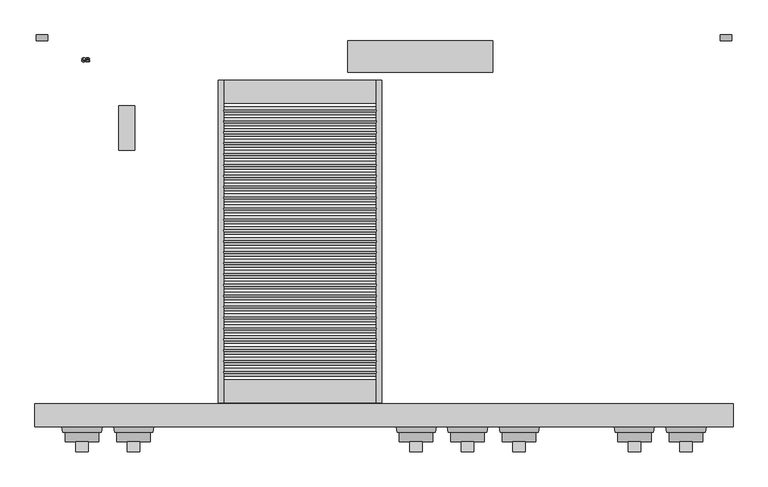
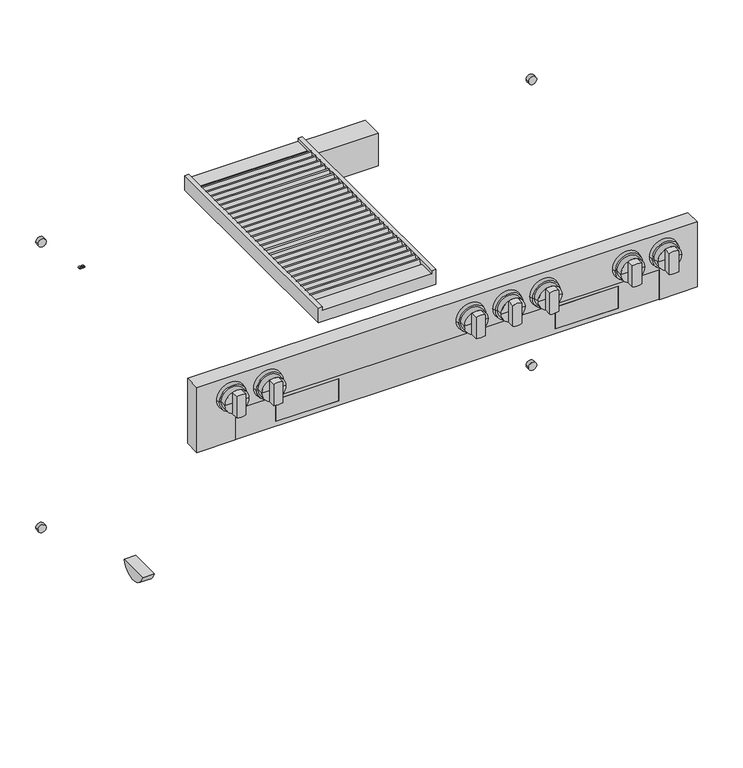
"""IFC4 building model written with IfcOpenShell, lengths in millimetres: proxy geometry, 11791690_USA_HR1955-3G_EDST-CLST : 25195581_USA_11791690_HR1955-3G_EDST-CLST."""

from ifc_helpers import new_model, si_unit, point, frame, frame_2d, origin, place, context, project, spatial, polyline, circle_curve, trimmed, segment, composite_curve, outline, extrude, faceted_brep, source, transform, mapped, element, save
from ifc_brep_helpers import plane_surface, cylinder_surface, revolved_surface, advanced_brep


def specialty_equipment_9f889e3c(model_context):
    return source(origin(), model_context, "Body", "SolidModel", [
        extrude(outline(composite_curve([segment(polyline([(-584.850382, 916.0), (-579.8405353, 927.7825791)]), True, "CONTINUOUS"), segment(trimmed(circle_curve(frame_2d((-578.0, 927.0)), 2.0), [point((-579.8405353, 927.7825791))], [point((-576.1594647, 927.7825791))], False, "CARTESIAN"), True, "CONTINUOUS"), segment(polyline([(-576.1594647, 927.7825791), (-571.149618, 916.0), (-584.850382, 916.0)]), True, "CONTINUOUS")], self_intersect=False)), frame((-279.5, 0.0, 0.0), z_axis=(1.0, 0.0, 0.0), x_axis=(0.0, 1.0, 0.0)), (0.0, 0.0, 1.0), 266.0),
        extrude(outline(composite_curve([segment(polyline([(-565.850382, 916.0), (-560.8405353, 927.7825791)]), True, "CONTINUOUS"), segment(trimmed(circle_curve(frame_2d((-559.0, 927.0)), 2.0), [point((-560.8405353, 927.7825791))], [point((-557.1594647, 927.7825791))], False, "CARTESIAN"), True, "CONTINUOUS"), segment(polyline([(-557.1594647, 927.7825791), (-552.149618, 916.0), (-565.850382, 916.0)]), True, "CONTINUOUS")], self_intersect=False)), frame((-279.5, 0.0, 0.0), z_axis=(1.0, 0.0, 0.0), x_axis=(0.0, 1.0, 0.0)), (0.0, 0.0, 1.0), 266.0),
        extrude(outline(composite_curve([segment(polyline([(-546.850382, 916.0), (-541.8405353, 927.7825791)]), True, "CONTINUOUS"), segment(trimmed(circle_curve(frame_2d((-540.0, 927.0)), 2.0), [point((-541.8405353, 927.7825791))], [point((-538.1594647, 927.7825791))], False, "CARTESIAN"), True, "CONTINUOUS"), segment(polyline([(-538.1594647, 927.7825791), (-533.149618, 916.0), (-546.850382, 916.0)]), True, "CONTINUOUS")], self_intersect=False)), frame((-279.5, 0.0, 0.0), z_axis=(1.0, 0.0, 0.0), x_axis=(0.0, 1.0, 0.0)), (0.0, 0.0, 1.0), 266.0),
        extrude(outline(composite_curve([segment(polyline([(-527.850382, 916.0), (-522.8405353, 927.7825791)]), True, "CONTINUOUS"), segment(trimmed(circle_curve(frame_2d((-521.0, 927.0)), 2.0), [point((-522.8405353, 927.7825791))], [point((-519.1594647, 927.7825791))], False, "CARTESIAN"), True, "CONTINUOUS"), segment(polyline([(-519.1594647, 927.7825791), (-514.149618, 916.0), (-527.850382, 916.0)]), True, "CONTINUOUS")], self_intersect=False)), frame((-279.5, 0.0, 0.0), z_axis=(1.0, 0.0, 0.0), x_axis=(0.0, 1.0, 0.0)), (0.0, 0.0, 1.0), 266.0),
        extrude(outline(composite_curve([segment(polyline([(-508.850382, 916.0), (-503.8405353, 927.7825791)]), True, "CONTINUOUS"), segment(trimmed(circle_curve(frame_2d((-502.0, 927.0)), 2.0), [point((-503.8405353, 927.7825791))], [point((-500.1594647, 927.7825791))], False, "CARTESIAN"), True, "CONTINUOUS"), segment(polyline([(-500.1594647, 927.7825791), (-495.149618, 916.0), (-508.850382, 916.0)]), True, "CONTINUOUS")], self_intersect=False)), frame((-279.5, 0.0, 0.0), z_axis=(1.0, 0.0, 0.0), x_axis=(0.0, 1.0, 0.0)), (0.0, 0.0, 1.0), 266.0),
        extrude(outline(composite_curve([segment(polyline([(-489.850382, 916.0), (-484.8405353, 927.7825791)]), True, "CONTINUOUS"), segment(trimmed(circle_curve(frame_2d((-483.0, 927.0)), 2.0), [point((-484.8405353, 927.7825791))], [point((-481.1594647, 927.7825791))], False, "CARTESIAN"), True, "CONTINUOUS"), segment(polyline([(-481.1594647, 927.7825791), (-476.149618, 916.0), (-489.850382, 916.0)]), True, "CONTINUOUS")], self_intersect=False)), frame((-279.5, 0.0, 0.0), z_axis=(1.0, 0.0, 0.0), x_axis=(0.0, 1.0, 0.0)), (0.0, 0.0, 1.0), 266.0),
        extrude(outline(composite_curve([segment(polyline([(-470.850382, 916.0), (-465.8405353, 927.7825791)]), True, "CONTINUOUS"), segment(trimmed(circle_curve(frame_2d((-464.0, 927.0)), 2.0), [point((-465.8405353, 927.7825791))], [point((-462.1594647, 927.7825791))], False, "CARTESIAN"), True, "CONTINUOUS"), segment(polyline([(-462.1594647, 927.7825791), (-457.149618, 916.0), (-470.850382, 916.0)]), True, "CONTINUOUS")], self_intersect=False)), frame((-279.5, 0.0, 0.0), z_axis=(1.0, 0.0, 0.0), x_axis=(0.0, 1.0, 0.0)), (0.0, 0.0, 1.0), 266.0),
        extrude(outline(composite_curve([segment(polyline([(-451.850382, 916.0), (-446.8405353, 927.7825791)]), True, "CONTINUOUS"), segment(trimmed(circle_curve(frame_2d((-445.0, 927.0)), 2.0), [point((-446.8405353, 927.7825791))], [point((-443.1594647, 927.7825791))], False, "CARTESIAN"), True, "CONTINUOUS"), segment(polyline([(-443.1594647, 927.7825791), (-438.149618, 916.0), (-451.850382, 916.0)]), True, "CONTINUOUS")], self_intersect=False)), frame((-279.5, 0.0, 0.0), z_axis=(1.0, 0.0, 0.0), x_axis=(0.0, 1.0, 0.0)), (0.0, 0.0, 1.0), 266.0),
        extrude(outline(composite_curve([segment(polyline([(-432.850382, 916.0), (-427.8405353, 927.7825791)]), True, "CONTINUOUS"), segment(trimmed(circle_curve(frame_2d((-426.0, 927.0)), 2.0), [point((-427.8405353, 927.7825791))], [point((-424.1594647, 927.7825791))], False, "CARTESIAN"), True, "CONTINUOUS"), segment(polyline([(-424.1594647, 927.7825791), (-419.149618, 916.0), (-432.850382, 916.0)]), True, "CONTINUOUS")], self_intersect=False)), frame((-279.5, 0.0, 0.0), z_axis=(1.0, 0.0, 0.0), x_axis=(0.0, 1.0, 0.0)), (0.0, 0.0, 1.0), 266.0),
        extrude(outline(composite_curve([segment(polyline([(-413.850382, 916.0), (-408.8405353, 927.7825791)]), True, "CONTINUOUS"), segment(trimmed(circle_curve(frame_2d((-407.0, 927.0)), 2.0), [point((-408.8405353, 927.7825791))], [point((-405.1594647, 927.7825791))], False, "CARTESIAN"), True, "CONTINUOUS"), segment(polyline([(-405.1594647, 927.7825791), (-400.149618, 916.0), (-413.850382, 916.0)]), True, "CONTINUOUS")], self_intersect=False)), frame((-279.5, 0.0, 0.0), z_axis=(1.0, 0.0, 0.0), x_axis=(0.0, 1.0, 0.0)), (0.0, 0.0, 1.0), 266.0),
        extrude(outline(composite_curve([segment(polyline([(-394.850382, 916.0), (-389.8405353, 927.7825791)]), True, "CONTINUOUS"), segment(trimmed(circle_curve(frame_2d((-388.0, 927.0)), 2.0), [point((-389.8405353, 927.7825791))], [point((-386.1594647, 927.7825791))], False, "CARTESIAN"), True, "CONTINUOUS"), segment(polyline([(-386.1594647, 927.7825791), (-381.149618, 916.0), (-394.850382, 916.0)]), True, "CONTINUOUS")], self_intersect=False)), frame((-279.5, 0.0, 0.0), z_axis=(1.0, 0.0, 0.0), x_axis=(0.0, 1.0, 0.0)), (0.0, 0.0, 1.0), 266.0),
        extrude(outline(composite_curve([segment(polyline([(-375.850382, 916.0), (-370.8405353, 927.7825791)]), True, "CONTINUOUS"), segment(trimmed(circle_curve(frame_2d((-369.0, 927.0)), 2.0), [point((-370.8405353, 927.7825791))], [point((-367.1594647, 927.7825791))], False, "CARTESIAN"), True, "CONTINUOUS"), segment(polyline([(-367.1594647, 927.7825791), (-362.149618, 916.0), (-375.850382, 916.0)]), True, "CONTINUOUS")], self_intersect=False)), frame((-279.5, 0.0, 0.0), z_axis=(1.0, 0.0, 0.0), x_axis=(0.0, 1.0, 0.0)), (0.0, 0.0, 1.0), 266.0),
        extrude(outline(composite_curve([segment(polyline([(-356.850382, 916.0), (-351.8405353, 927.7825791)]), True, "CONTINUOUS"), segment(trimmed(circle_curve(frame_2d((-350.0, 927.0)), 2.0), [point((-351.8405353, 927.7825791))], [point((-348.1594647, 927.7825791))], False, "CARTESIAN"), True, "CONTINUOUS"), segment(polyline([(-348.1594647, 927.7825791), (-343.149618, 916.0), (-356.850382, 916.0)]), True, "CONTINUOUS")], self_intersect=False)), frame((-279.5, 0.0, 0.0), z_axis=(1.0, 0.0, 0.0), x_axis=(0.0, 1.0, 0.0)), (0.0, 0.0, 1.0), 266.0),
        extrude(outline(composite_curve([segment(polyline([(-337.850382, 916.0), (-332.8405353, 927.7825791)]), True, "CONTINUOUS"), segment(trimmed(circle_curve(frame_2d((-331.0, 927.0)), 2.0), [point((-332.8405353, 927.7825791))], [point((-329.1594647, 927.7825791))], False, "CARTESIAN"), True, "CONTINUOUS"), segment(polyline([(-329.1594647, 927.7825791), (-324.149618, 916.0), (-337.850382, 916.0)]), True, "CONTINUOUS")], self_intersect=False)), frame((-279.5, 0.0, 0.0), z_axis=(1.0, 0.0, 0.0), x_axis=(0.0, 1.0, 0.0)), (0.0, 0.0, 1.0), 266.0),
        extrude(outline(composite_curve([segment(polyline([(-318.850382, 916.0), (-313.8405353, 927.7825791)]), True, "CONTINUOUS"), segment(trimmed(circle_curve(frame_2d((-312.0, 927.0)), 2.0), [point((-313.8405353, 927.7825791))], [point((-310.1594647, 927.7825791))], False, "CARTESIAN"), True, "CONTINUOUS"), segment(polyline([(-310.1594647, 927.7825791), (-305.149618, 916.0), (-318.850382, 916.0)]), True, "CONTINUOUS")], self_intersect=False)), frame((-279.5, 0.0, 0.0), z_axis=(1.0, 0.0, 0.0), x_axis=(0.0, 1.0, 0.0)), (0.0, 0.0, 1.0), 266.0),
        extrude(outline(composite_curve([segment(polyline([(-299.850382, 916.0), (-294.8405353, 927.7825791)]), True, "CONTINUOUS"), segment(trimmed(circle_curve(frame_2d((-293.0, 927.0)), 2.0), [point((-294.8405353, 927.7825791))], [point((-291.1594647, 927.7825791))], False, "CARTESIAN"), True, "CONTINUOUS"), segment(polyline([(-291.1594647, 927.7825791), (-286.149618, 916.0), (-299.850382, 916.0)]), True, "CONTINUOUS")], self_intersect=False)), frame((-279.5, 0.0, 0.0), z_axis=(1.0, 0.0, 0.0), x_axis=(0.0, 1.0, 0.0)), (0.0, 0.0, 1.0), 266.0),
        extrude(outline(composite_curve([segment(polyline([(-280.850382, 916.0), (-275.8405353, 927.7825791)]), True, "CONTINUOUS"), segment(trimmed(circle_curve(frame_2d((-274.0, 927.0)), 2.0), [point((-275.8405353, 927.7825791))], [point((-272.1594647, 927.7825791))], False, "CARTESIAN"), True, "CONTINUOUS"), segment(polyline([(-272.1594647, 927.7825791), (-267.149618, 916.0), (-280.850382, 916.0)]), True, "CONTINUOUS")], self_intersect=False)), frame((-279.5, 0.0, 0.0), z_axis=(1.0, 0.0, 0.0), x_axis=(0.0, 1.0, 0.0)), (0.0, 0.0, 1.0), 266.0),
        extrude(outline(composite_curve([segment(polyline([(-261.850382, 916.0), (-256.8405353, 927.7825791)]), True, "CONTINUOUS"), segment(trimmed(circle_curve(frame_2d((-255.0, 927.0)), 2.0), [point((-256.8405353, 927.7825791))], [point((-253.1594647, 927.7825791))], False, "CARTESIAN"), True, "CONTINUOUS"), segment(polyline([(-253.1594647, 927.7825791), (-248.149618, 916.0), (-261.850382, 916.0)]), True, "CONTINUOUS")], self_intersect=False)), frame((-279.5, 0.0, 0.0), z_axis=(1.0, 0.0, 0.0), x_axis=(0.0, 1.0, 0.0)), (0.0, 0.0, 1.0), 266.0),
        extrude(outline(composite_curve([segment(polyline([(-242.850382, 916.0), (-237.8405353, 927.7825791)]), True, "CONTINUOUS"), segment(trimmed(circle_curve(frame_2d((-236.0, 927.0)), 2.0), [point((-237.8405353, 927.7825791))], [point((-234.1594647, 927.7825791))], False, "CARTESIAN"), True, "CONTINUOUS"), segment(polyline([(-234.1594647, 927.7825791), (-229.149618, 916.0), (-242.850382, 916.0)]), True, "CONTINUOUS")], self_intersect=False)), frame((-279.5, 0.0, 0.0), z_axis=(1.0, 0.0, 0.0), x_axis=(0.0, 1.0, 0.0)), (0.0, 0.0, 1.0), 266.0),
        extrude(outline(composite_curve([segment(polyline([(-223.850382, 916.0), (-218.8405353, 927.7825791)]), True, "CONTINUOUS"), segment(trimmed(circle_curve(frame_2d((-217.0, 927.0)), 2.0), [point((-218.8405353, 927.7825791))], [point((-215.1594647, 927.7825791))], False, "CARTESIAN"), True, "CONTINUOUS"), segment(polyline([(-215.1594647, 927.7825791), (-210.149618, 916.0), (-223.850382, 916.0)]), True, "CONTINUOUS")], self_intersect=False)), frame((-279.5, 0.0, 0.0), z_axis=(1.0, 0.0, 0.0), x_axis=(0.0, 1.0, 0.0)), (0.0, 0.0, 1.0), 266.0),
        extrude(outline(composite_curve([segment(polyline([(-204.850382, 916.0), (-199.8405353, 927.7825791)]), True, "CONTINUOUS"), segment(trimmed(circle_curve(frame_2d((-198.0, 927.0)), 2.0), [point((-199.8405353, 927.7825791))], [point((-196.1594647, 927.7825791))], False, "CARTESIAN"), True, "CONTINUOUS"), segment(polyline([(-196.1594647, 927.7825791), (-191.149618, 916.0), (-204.850382, 916.0)]), True, "CONTINUOUS")], self_intersect=False)), frame((-279.5, 0.0, 0.0), z_axis=(1.0, 0.0, 0.0), x_axis=(0.0, 1.0, 0.0)), (0.0, 0.0, 1.0), 266.0),
        extrude(outline(composite_curve([segment(polyline([(-186.0094205, 916.0), (-180.9995737, 927.7825791)]), True, "CONTINUOUS"), segment(trimmed(circle_curve(frame_2d((-179.1590385, 927.0)), 2.0), [point((-180.9995737, 927.7825791))], [point((-177.3185032, 927.7825791))], False, "CARTESIAN"), True, "CONTINUOUS"), segment(polyline([(-177.3185032, 927.7825791), (-172.3086564, 916.0), (-186.0094205, 916.0)]), True, "CONTINUOUS")], self_intersect=False)), frame((-279.5, 0.0, 0.0), z_axis=(1.0, 0.0, 0.0), x_axis=(0.0, 1.0, 0.0)), (0.0, 0.0, 1.0), 266.0),
        extrude(outline(composite_curve([segment(polyline([(-167.0094205, 916.0), (-161.9995737, 927.7825791)]), True, "CONTINUOUS"), segment(trimmed(circle_curve(frame_2d((-160.1590385, 927.0)), 2.0), [point((-161.9995737, 927.7825791))], [point((-158.3185032, 927.7825791))], False, "CARTESIAN"), True, "CONTINUOUS"), segment(polyline([(-158.3185032, 927.7825791), (-153.3086564, 916.0), (-167.0094205, 916.0)]), True, "CONTINUOUS")], self_intersect=False)), frame((-279.5, 0.0, 0.0), z_axis=(1.0, 0.0, 0.0), x_axis=(0.0, 1.0, 0.0)), (0.0, 0.0, 1.0), 266.0),
        extrude(outline(composite_curve([segment(polyline([(-147.9510319, 916.0), (-142.9411852, 927.7825791)]), True, "CONTINUOUS"), segment(trimmed(circle_curve(frame_2d((-141.1006499, 927.0)), 2.0), [point((-142.9411852, 927.7825791))], [point((-139.2601147, 927.7825791))], False, "CARTESIAN"), True, "CONTINUOUS"), segment(polyline([(-139.2601147, 927.7825791), (-134.2502679, 916.0), (-147.9510319, 916.0)]), True, "CONTINUOUS")], self_intersect=False)), frame((-279.5, 0.0, 0.0), z_axis=(1.0, 0.0, 0.0), x_axis=(0.0, 1.0, 0.0)), (0.0, 0.0, 1.0), 266.0),
        extrude(outline(composite_curve([segment(polyline([(-128.9510319, 916.0), (-123.9411852, 927.7825791)]), True, "CONTINUOUS"), segment(trimmed(circle_curve(frame_2d((-122.1006499, 927.0)), 2.0), [point((-123.9411852, 927.7825791))], [point((-120.2601147, 927.7825791))], False, "CARTESIAN"), True, "CONTINUOUS"), segment(polyline([(-120.2601147, 927.7825791), (-115.2502679, 916.0), (-128.9510319, 916.0)]), True, "CONTINUOUS")], self_intersect=False)), frame((-279.5, 0.0, 0.0), z_axis=(1.0, 0.0, 0.0), x_axis=(0.0, 1.0, 0.0)), (0.0, 0.0, 1.0), 266.0),
        faceted_brep([(-289.0, -69.0, 929.0), (-289.0, -631.0, 929.0), (-279.5, -631.0, 929.0), (-279.5, -69.0, 929.0), (-4.0, -631.0, 929.0), (-4.0, -69.0, 929.0), (-13.5, -69.0, 929.0), (-13.5, -631.0, 929.0), (-4.0, -69.0, 891.0), (-4.0, -631.0, 891.0), (-289.0, -631.0, 891.0), (-289.0, -69.0, 891.0), (-13.5, -356.6944574, 891.0), (-13.5, -109.0, 891.0), (-279.5, -109.0, 891.0), (-279.5, -356.6944574, 891.0), (-279.5, -591.0, 891.0), (-13.5, -591.0, 891.0), (-279.5, -69.0, 921.0), (-13.5, -69.0, 921.0), (-13.5, -631.0, 921.0), (-279.5, -631.0, 921.0), (-13.5, -591.0, 921.0), (-13.5, -109.0, 921.0), (-279.5, -591.0, 921.0), (-279.5, -109.0, 921.0)], [[[0, 1, 2, 3]], [[4, 5, 6, 7]], [[8, 9, 10, 11], [12, 13, 14, 15, 16, 17]], [[8, 11, 0, 3, 18, 19, 6, 5]], [[1, 0, 11, 10]], [[10, 9, 4, 7, 20, 21, 2, 1]], [[5, 4, 9, 8]], [[22, 20, 7, 6, 19, 23, 13, 12, 17]], [[24, 16, 15, 14, 25, 18, 3, 2, 21]], [[22, 17, 16, 24]], [[13, 23, 25, 14]], [[23, 19, 18, 25]], [[20, 22, 24, 21]]]),
        extrude(outline(composite_curve([segment(polyline([(839.8328157, 134.5), (786.1671843, 134.5)]), True, "CONTINUOUS"), segment(trimmed(circle_curve(frame_2d((813.0, 145.5)), 29.0), [point((786.1671843, 134.5))], [point((786.1671843, 156.5))], False, "CARTESIAN"), True, "CONTINUOUS"), segment(polyline([(786.1671843, 156.5), (839.8328157, 156.5)]), True, "CONTINUOUS"), segment(trimmed(circle_curve(frame_2d((813.0, 145.5)), 29.0), [point((839.8328157, 156.5))], [point((839.8328157, 134.5))], False, "CARTESIAN"), True, "CONTINUOUS")], self_intersect=False)), frame((0.0, -717.0, 0.0), z_axis=(0.0, 1.0, 0.0), x_axis=(0.0, 0.0, 1.0)), (0.0, 0.0, 1.0), 18.0),
        extrude(outline(composite_curve([segment(polyline([(839.8328157, 45.0), (786.1671843, 45.0)]), True, "CONTINUOUS"), segment(trimmed(circle_curve(frame_2d((813.0, 56.0)), 29.0), [point((786.1671843, 45.0))], [point((786.1671843, 67.0))], False, "CARTESIAN"), True, "CONTINUOUS"), segment(polyline([(786.1671843, 67.0), (839.8328157, 67.0)]), True, "CONTINUOUS"), segment(trimmed(circle_curve(frame_2d((813.0, 56.0)), 29.0), [point((839.8328157, 67.0))], [point((839.8328157, 45.0))], False, "CARTESIAN"), True, "CONTINUOUS")], self_intersect=False)), frame((0.0, -717.0, 0.0), z_axis=(0.0, 1.0, 0.0), x_axis=(0.0, 0.0, 1.0)), (0.0, 0.0, 1.0), 18.0),
        advanced_brep(
        [(56.0, -683.0, 813.0), (85.0, -683.0, 813.0), (27.0, -683.0, 813.0), (27.0, -699.0, 813.0), (85.0, -699.0, 813.0), (56.0, -699.0, 813.0)],
        [
            (0, 1),
            (1, 2, circle_curve(frame((56.0, -683.0, 813.0), z_axis=(0.0, 1.0, 0.0), x_axis=(1.0, 0.0, 0.0)), 29.0)),
            (2, 0),
            (2, 1, circle_curve(frame((56.0, -683.0, 813.0), z_axis=(0.0, 1.0, 0.0), x_axis=(1.0, 0.0, 0.0)), 29.0)),
            (3, 4, circle_curve(frame((56.0, -699.0, 813.0), z_axis=(0.0, -1.0, 0.0), x_axis=(1.0, 0.0, 0.0)), 29.0)),
            (4, 5),
            (5, 3),
            (4, 3, circle_curve(frame((56.0, -699.0, 813.0), z_axis=(0.0, -1.0, 0.0), x_axis=(1.0, 0.0, 0.0)), 29.0)),
            (1, 4),
            (3, 2),
        ],
        [
            plane_surface(frame((56.0, -683.0, 813.0), z_axis=(0.0, 1.0, 0.0), x_axis=(1.0, 0.0, 0.0))),
            plane_surface(frame((56.0, -699.0, 813.0), z_axis=(0.0, -1.0, 0.0), x_axis=(1.0, 0.0, 0.0))),
            cylinder_surface(frame((56.0, 751.3738435, 813.0), z_axis=(0.0, 1.0, 0.0), x_axis=(1.0, 0.0, 0.0)), 29.0),
        ],
        [
            (0, [[1, 2, 3]]),
            (0, [[-3, 4, -1]]),
            (1, [[5, 6, 7]]),
            (1, [[8, -7, -6]]),
            (2, [[-2, 9, -5, 10]]),
            (2, [[-4, -10, -8, -9]]),
        ],
    ),
        advanced_brep(
        [(145.5, -683.0, 813.0), (174.5, -683.0, 813.0), (116.5, -683.0, 813.0), (116.5, -699.0, 813.0), (174.5, -699.0, 813.0), (145.5, -699.0, 813.0)],
        [
            (0, 1),
            (1, 2, circle_curve(frame((145.5, -683.0, 813.0), z_axis=(0.0, 1.0, 0.0), x_axis=(1.0, 0.0, 0.0)), 29.0)),
            (2, 0),
            (2, 1, circle_curve(frame((145.5, -683.0, 813.0), z_axis=(0.0, 1.0, 0.0), x_axis=(1.0, 0.0, 0.0)), 29.0)),
            (3, 4, circle_curve(frame((145.5, -699.0, 813.0), z_axis=(0.0, -1.0, 0.0), x_axis=(1.0, 0.0, 0.0)), 29.0)),
            (4, 5),
            (5, 3),
            (4, 3, circle_curve(frame((145.5, -699.0, 813.0), z_axis=(0.0, -1.0, 0.0), x_axis=(1.0, 0.0, 0.0)), 29.0)),
            (1, 4),
            (3, 2),
        ],
        [
            plane_surface(frame((145.5, -683.0, 813.0), z_axis=(0.0, 1.0, 0.0), x_axis=(1.0, 0.0, 0.0))),
            plane_surface(frame((145.5, -699.0, 813.0), z_axis=(0.0, -1.0, 0.0), x_axis=(1.0, 0.0, 0.0))),
            cylinder_surface(frame((145.5, 751.3738435, 813.0), z_axis=(0.0, 1.0, 0.0), x_axis=(1.0, 0.0, 0.0)), 29.0),
        ],
        [
            (0, [[1, 2, 3]]),
            (0, [[-3, 4, -1]]),
            (1, [[5, 6, 7]]),
            (1, [[8, -7, -6]]),
            (2, [[-2, 9, -5, 10]]),
            (2, [[-4, -10, -8, -9]]),
        ],
    ),
        extrude(outline(composite_curve([segment(polyline([(839.8328157, -537.5), (786.1671843, -537.5)]), True, "CONTINUOUS"), segment(trimmed(circle_curve(frame_2d((813.0, -526.5)), 29.0), [point((786.1671843, -537.5))], [point((786.1671843, -515.5))], False, "CARTESIAN"), True, "CONTINUOUS"), segment(polyline([(786.1671843, -515.5), (839.8328157, -515.5)]), True, "CONTINUOUS"), segment(trimmed(circle_curve(frame_2d((813.0, -526.5)), 29.0), [point((839.8328157, -515.5))], [point((839.8328157, -537.5))], False, "CARTESIAN"), True, "CONTINUOUS")], self_intersect=False)), frame((0.0, -717.0, 0.0), z_axis=(0.0, 1.0, 0.0), x_axis=(0.0, 0.0, 1.0)), (0.0, 0.0, 1.0), 18.0),
        extrude(outline(composite_curve([segment(polyline([(839.8328157, -447.5), (786.1671843, -447.5)]), True, "CONTINUOUS"), segment(trimmed(circle_curve(frame_2d((813.0, -436.5)), 29.0), [point((786.1671843, -447.5))], [point((786.1671843, -425.5))], False, "CARTESIAN"), True, "CONTINUOUS"), segment(polyline([(786.1671843, -425.5), (839.8328157, -425.5)]), True, "CONTINUOUS"), segment(trimmed(circle_curve(frame_2d((813.0, -436.5)), 29.0), [point((839.8328157, -425.5))], [point((839.8328157, -447.5))], False, "CARTESIAN"), True, "CONTINUOUS")], self_intersect=False)), frame((0.0, -717.0, 0.0), z_axis=(0.0, 1.0, 0.0), x_axis=(0.0, 0.0, 1.0)), (0.0, 0.0, 1.0), 18.0),
        extrude(outline(composite_curve([segment(polyline([(839.8328157, 224.5), (786.1671843, 224.5)]), True, "CONTINUOUS"), segment(trimmed(circle_curve(frame_2d((813.0, 235.5)), 29.0), [point((786.1671843, 224.5))], [point((786.1671843, 246.5))], False, "CARTESIAN"), True, "CONTINUOUS"), segment(polyline([(786.1671843, 246.5), (839.8328157, 246.5)]), True, "CONTINUOUS"), segment(trimmed(circle_curve(frame_2d((813.0, 235.5)), 29.0), [point((839.8328157, 246.5))], [point((839.8328157, 224.5))], False, "CARTESIAN"), True, "CONTINUOUS")], self_intersect=False)), frame((0.0, -717.0, 0.0), z_axis=(0.0, 1.0, 0.0), x_axis=(0.0, 0.0, 1.0)), (0.0, 0.0, 1.0), 18.0),
        extrude(outline(composite_curve([segment(trimmed(circle_curve(frame_2d((813.0, 436.5)), 29.0), [point((786.1671843, 425.5))], [point((786.1671843, 447.5))], False, "CARTESIAN"), True, "CONTINUOUS"), segment(polyline([(786.1671843, 447.5), (839.8328157, 447.5)]), True, "CONTINUOUS"), segment(trimmed(circle_curve(frame_2d((813.0, 436.5)), 29.0), [point((839.8328157, 447.5))], [point((839.8328157, 425.5))], False, "CARTESIAN"), True, "CONTINUOUS"), segment(polyline([(839.8328157, 425.5), (786.1671843, 425.5)]), True, "CONTINUOUS")], self_intersect=False)), frame((0.0, -717.0, 0.0), z_axis=(0.0, 1.0, 0.0), x_axis=(0.0, 0.0, 1.0)), (0.0, 0.0, 1.0), 18.0),
        advanced_brep(
        [(-526.5, -683.0, 813.0), (-497.5, -683.0, 813.0), (-555.5, -683.0, 813.0), (-555.5, -699.0, 813.0), (-497.5, -699.0, 813.0), (-526.5, -699.0, 813.0)],
        [
            (0, 1),
            (1, 2, circle_curve(frame((-526.5, -683.0, 813.0), z_axis=(0.0, 1.0, 0.0), x_axis=(1.0, 0.0, 0.0)), 29.0)),
            (2, 0),
            (2, 1, circle_curve(frame((-526.5, -683.0, 813.0), z_axis=(0.0, 1.0, 0.0), x_axis=(1.0, 0.0, 0.0)), 29.0)),
            (3, 4, circle_curve(frame((-526.5, -699.0, 813.0), z_axis=(0.0, -1.0, 0.0), x_axis=(1.0, 0.0, 0.0)), 29.0)),
            (4, 5),
            (5, 3),
            (4, 3, circle_curve(frame((-526.5, -699.0, 813.0), z_axis=(0.0, -1.0, 0.0), x_axis=(1.0, 0.0, 0.0)), 29.0)),
            (1, 4),
            (3, 2),
        ],
        [
            plane_surface(frame((-526.5, -683.0, 813.0), z_axis=(0.0, 1.0, 0.0), x_axis=(1.0, 0.0, 0.0))),
            plane_surface(frame((-526.5, -699.0, 813.0), z_axis=(0.0, -1.0, 0.0), x_axis=(1.0, 0.0, 0.0))),
            cylinder_surface(frame((-526.5, 751.3738435, 813.0), z_axis=(0.0, 1.0, 0.0), x_axis=(1.0, 0.0, 0.0)), 29.0),
        ],
        [
            (0, [[1, 2, 3]]),
            (0, [[-3, 4, -1]]),
            (1, [[5, 6, 7]]),
            (1, [[8, -7, -6]]),
            (2, [[-2, 9, -5, 10]]),
            (2, [[-4, -10, -8, -9]]),
        ],
    ),
        advanced_brep(
        [(-436.5, -683.0, 813.0), (-407.5, -683.0, 813.0), (-465.5, -683.0, 813.0), (-465.5, -699.0, 813.0), (-407.5, -699.0, 813.0), (-436.5, -699.0, 813.0)],
        [
            (0, 1),
            (1, 2, circle_curve(frame((-436.5, -683.0, 813.0), z_axis=(0.0, 1.0, 0.0), x_axis=(1.0, 0.0, 0.0)), 29.0)),
            (2, 0),
            (2, 1, circle_curve(frame((-436.5, -683.0, 813.0), z_axis=(0.0, 1.0, 0.0), x_axis=(1.0, 0.0, 0.0)), 29.0)),
            (3, 4, circle_curve(frame((-436.5, -699.0, 813.0), z_axis=(0.0, -1.0, 0.0), x_axis=(1.0, 0.0, 0.0)), 29.0)),
            (4, 5),
            (5, 3),
            (4, 3, circle_curve(frame((-436.5, -699.0, 813.0), z_axis=(0.0, -1.0, 0.0), x_axis=(1.0, 0.0, 0.0)), 29.0)),
            (1, 4),
            (3, 2),
        ],
        [
            plane_surface(frame((-436.5, -683.0, 813.0), z_axis=(0.0, 1.0, 0.0), x_axis=(1.0, 0.0, 0.0))),
            plane_surface(frame((-436.5, -699.0, 813.0), z_axis=(0.0, -1.0, 0.0), x_axis=(1.0, 0.0, 0.0))),
            cylinder_surface(frame((-436.5, 751.3738435, 813.0), z_axis=(0.0, 1.0, 0.0), x_axis=(1.0, 0.0, 0.0)), 29.0),
        ],
        [
            (0, [[1, 2, 3]]),
            (0, [[-3, 4, -1]]),
            (1, [[5, 6, 7]]),
            (1, [[8, -7, -6]]),
            (2, [[-2, 9, -5, 10]]),
            (2, [[-4, -10, -8, -9]]),
        ],
    ),
        advanced_brep(
        [(235.5, -683.0, 813.0), (264.5, -683.0, 813.0), (206.5, -683.0, 813.0), (206.5, -699.0, 813.0), (264.5, -699.0, 813.0), (235.5, -699.0, 813.0)],
        [
            (0, 1),
            (1, 2, circle_curve(frame((235.5, -683.0, 813.0), z_axis=(0.0, 1.0, 0.0), x_axis=(1.0, 0.0, 0.0)), 29.0)),
            (2, 0),
            (2, 1, circle_curve(frame((235.5, -683.0, 813.0), z_axis=(0.0, 1.0, 0.0), x_axis=(1.0, 0.0, 0.0)), 29.0)),
            (3, 4, circle_curve(frame((235.5, -699.0, 813.0), z_axis=(0.0, -1.0, 0.0), x_axis=(1.0, 0.0, 0.0)), 29.0)),
            (4, 5),
            (5, 3),
            (4, 3, circle_curve(frame((235.5, -699.0, 813.0), z_axis=(0.0, -1.0, 0.0), x_axis=(1.0, 0.0, 0.0)), 29.0)),
            (1, 4),
            (3, 2),
        ],
        [
            plane_surface(frame((235.5, -683.0, 813.0), z_axis=(0.0, 1.0, 0.0), x_axis=(1.0, 0.0, 0.0))),
            plane_surface(frame((235.5, -699.0, 813.0), z_axis=(0.0, -1.0, 0.0), x_axis=(1.0, 0.0, 0.0))),
            cylinder_surface(frame((235.5, 751.3738435, 813.0), z_axis=(0.0, 1.0, 0.0), x_axis=(1.0, 0.0, 0.0)), 29.0),
        ],
        [
            (0, [[1, 2, 3]]),
            (0, [[-3, 4, -1]]),
            (1, [[5, 6, 7]]),
            (1, [[8, -7, -6]]),
            (2, [[-2, 9, -5, 10]]),
            (2, [[-4, -10, -8, -9]]),
        ],
    ),
        advanced_brep(
        [(436.5, -683.0, 813.0), (465.5, -683.0, 813.0), (407.5, -683.0, 813.0), (407.5, -699.0, 813.0), (465.5, -699.0, 813.0), (436.5, -699.0, 813.0)],
        [
            (0, 1),
            (1, 2, circle_curve(frame((436.5, -683.0, 813.0), z_axis=(0.0, 1.0, 0.0), x_axis=(1.0, 0.0, 0.0)), 29.0)),
            (2, 0),
            (2, 1, circle_curve(frame((436.5, -683.0, 813.0), z_axis=(0.0, 1.0, 0.0), x_axis=(1.0, 0.0, 0.0)), 29.0)),
            (3, 4, circle_curve(frame((436.5, -699.0, 813.0), z_axis=(0.0, -1.0, 0.0), x_axis=(1.0, 0.0, 0.0)), 29.0)),
            (4, 5),
            (5, 3),
            (4, 3, circle_curve(frame((436.5, -699.0, 813.0), z_axis=(0.0, -1.0, 0.0), x_axis=(1.0, 0.0, 0.0)), 29.0)),
            (1, 4),
            (3, 2),
        ],
        [
            plane_surface(frame((436.5, -683.0, 813.0), z_axis=(0.0, 1.0, 0.0), x_axis=(1.0, 0.0, 0.0))),
            plane_surface(frame((436.5, -699.0, 813.0), z_axis=(0.0, -1.0, 0.0), x_axis=(1.0, 0.0, 0.0))),
            cylinder_surface(frame((436.5, 751.3738435, 813.0), z_axis=(0.0, 1.0, 0.0), x_axis=(1.0, 0.0, 0.0)), 29.0),
        ],
        [
            (0, [[1, 2, 3]]),
            (0, [[-3, 4, -1]]),
            (1, [[5, 6, 7]]),
            (1, [[8, -7, -6]]),
            (2, [[-2, 9, -5, 10]]),
            (2, [[-4, -10, -8, -9]]),
        ],
    ),
        extrude(outline(composite_curve([segment(polyline([(786.1671843, 537.5), (839.8328157, 537.5)]), True, "CONTINUOUS"), segment(trimmed(circle_curve(frame_2d((813.0, 526.5)), 29.0), [point((839.8328157, 537.5))], [point((839.8328157, 515.5))], False, "CARTESIAN"), True, "CONTINUOUS"), segment(polyline([(839.8328157, 515.5), (786.1671843, 515.5)]), True, "CONTINUOUS"), segment(trimmed(circle_curve(frame_2d((813.0, 526.5)), 29.0), [point((786.1671843, 515.5))], [point((786.1671843, 537.5))], False, "CARTESIAN"), True, "CONTINUOUS")], self_intersect=False)), frame((0.0, -717.0, 0.0), z_axis=(0.0, 1.0, 0.0), x_axis=(0.0, 0.0, 1.0)), (0.0, 0.0, 1.0), 18.0),
        advanced_brep(
        [(526.5, -683.0, 813.0), (555.5, -683.0, 813.0), (497.5, -683.0, 813.0), (497.5, -699.0, 813.0), (555.5, -699.0, 813.0), (526.5, -699.0, 813.0)],
        [
            (0, 1),
            (1, 2, circle_curve(frame((526.5, -683.0, 813.0), z_axis=(0.0, 1.0, 0.0), x_axis=(1.0, 0.0, 0.0)), 29.0)),
            (2, 0),
            (2, 1, circle_curve(frame((526.5, -683.0, 813.0), z_axis=(0.0, 1.0, 0.0), x_axis=(1.0, 0.0, 0.0)), 29.0)),
            (3, 4, circle_curve(frame((526.5, -699.0, 813.0), z_axis=(0.0, -1.0, 0.0), x_axis=(1.0, 0.0, 0.0)), 29.0)),
            (4, 5),
            (5, 3),
            (4, 3, circle_curve(frame((526.5, -699.0, 813.0), z_axis=(0.0, -1.0, 0.0), x_axis=(1.0, 0.0, 0.0)), 29.0)),
            (1, 4),
            (3, 2),
        ],
        [
            plane_surface(frame((526.5, -683.0, 813.0), z_axis=(0.0, 1.0, 0.0), x_axis=(1.0, 0.0, 0.0))),
            plane_surface(frame((526.5, -699.0, 813.0), z_axis=(0.0, -1.0, 0.0), x_axis=(1.0, 0.0, 0.0))),
            cylinder_surface(frame((526.5, 751.3738435, 813.0), z_axis=(0.0, 1.0, 0.0), x_axis=(1.0, 0.0, 0.0)), 29.0),
        ],
        [
            (0, [[1, 2, 3]]),
            (0, [[-3, 4, -1]]),
            (1, [[5, 6, 7]]),
            (1, [[8, -7, -6]]),
            (2, [[-2, 9, -5, 10]]),
            (2, [[-4, -10, -8, -9]]),
        ],
    ),
        extrude(outline(polyline([(-263.5, -671.7), (-416.5, -671.7), (-416.5, -670.7), (-263.5, -670.7), (-263.5, -671.7)])), frame((0.0, 0.0, 707.0), z_axis=(0.0, 0.0, 1.0), x_axis=(1.0, 0.0, 0.0)), (0.0, 0.0, 1.0), 56.0),
        extrude(outline(polyline([(416.5, -671.7), (263.5, -671.7), (263.5, -670.7), (416.5, -670.7), (416.5, -671.7)])), frame((0.0, 0.0, 707.0), z_axis=(0.0, 0.0, 1.0), x_axis=(1.0, 0.0, 0.0)), (0.0, 0.0, 1.0), 56.0),
        extrude(outline(polyline([(772.0, 515.5), (772.0, -515.5), (695.0, -515.5), (695.0, 515.5), (772.0, 515.5)]), holes=[polyline([(763.0, -263.5), (707.0, -263.5), (707.0, -416.5), (763.0, -416.5), (763.0, -263.5)]), polyline([(763.0, 416.5), (707.0, 416.5), (707.0, 263.5), (763.0, 263.5), (763.0, 416.5)])]), frame((0.0, -671.7, 0.0), z_axis=(0.0, 1.0, 0.0), x_axis=(0.0, 0.0, 1.0)), (0.0, 0.0, 1.0), 5.0),
        faceted_brep([(608.5, -673.0, 862.0), (-608.5, -673.0, 862.0), (-608.5, -673.0, 695.0), (-515.5, -673.0, 695.0), (-515.5, -673.0, 772.0), (515.5, -673.0, 772.0), (515.5, -673.0, 695.0), (608.5, -673.0, 695.0), (608.5, -633.0, 862.0), (608.5, -633.0, 695.0), (-608.5, -633.0, 695.0), (-608.5, -633.0, 862.0), (515.5, -666.7, 695.0), (-515.5, -666.7, 695.0), (515.5, -666.7, 772.0), (-515.5, -666.7, 772.0)], [[[0, 1, 2, 3, 4, 5, 6, 7]], [[8, 9, 10, 11]], [[0, 7, 9, 8]], [[10, 9, 7, 6, 12, 13, 3, 2]], [[2, 1, 11, 10]], [[1, 0, 8, 11]], [[14, 15, 13, 12]], [[14, 12, 6, 5]], [[13, 15, 4, 3]], [[15, 14, 5, 4]]]),
        advanced_brep(
        [(22.7632698, -683.0, 813.0), (89.2367302, -683.0, 813.0), (56.0, -683.0, 813.0), (21.0, -673.0, 813.0), (91.0, -673.0, 813.0), (56.0, -673.0, 813.0)],
        [
            (0, 1, circle_curve(frame((56.0, -683.0, 813.0), z_axis=(0.0, -1.0, 0.0), x_axis=(1.0, 0.0, 0.0)), 33.2367302)),
            (1, 2),
            (2, 0),
            (1, 0, circle_curve(frame((56.0, -683.0, 813.0), z_axis=(0.0, -1.0, 0.0), x_axis=(1.0, 0.0, 0.0)), 33.2367302)),
            (3, 4, circle_curve(frame((56.0, -673.0, 813.0), z_axis=(0.0, -1.0, 0.0), x_axis=(1.0, 0.0, 0.0)), 35.0)),
            (4, 1),
            (0, 3),
            (4, 3, circle_curve(frame((56.0, -673.0, 813.0), z_axis=(0.0, -1.0, 0.0), x_axis=(1.0, 0.0, 0.0)), 35.0)),
            (5, 4),
            (3, 5),
        ],
        [
            plane_surface(frame((56.0, -683.0, 813.0), z_axis=(0.0, -1.0, 0.0), x_axis=(1.0, 0.0, 0.0))),
            revolved_surface(polyline([(89.2367302, -683.0, 813.0), (91.0, -673.0, 813.0)]), (56.0, 751.3738435, 813.0), (0.0, 1.0, 0.0)),
            plane_surface(frame((56.0, -673.0, 813.0), z_axis=(0.0, 1.0, 0.0), x_axis=(1.0, 0.0, 0.0))),
        ],
        [
            (0, [[1, 2, 3]]),
            (0, [[4, -3, -2]]),
            (1, [[5, 6, -1, 7]]),
            (1, [[8, -7, -4, -6]]),
            (2, [[9, -5, 10]]),
            (2, [[-10, -8, -9]]),
        ],
    ),
        advanced_brep(
        [(112.2632698, -683.0, 813.0), (178.7367302, -683.0, 813.0), (145.5, -683.0, 813.0), (110.5, -673.0, 813.0), (180.5, -673.0, 813.0), (145.5, -673.0, 813.0)],
        [
            (0, 1, circle_curve(frame((145.5, -683.0, 813.0), z_axis=(0.0, -1.0, 0.0), x_axis=(1.0, 0.0, 0.0)), 33.2367302)),
            (1, 2),
            (2, 0),
            (1, 0, circle_curve(frame((145.5, -683.0, 813.0), z_axis=(0.0, -1.0, 0.0), x_axis=(1.0, 0.0, 0.0)), 33.2367302)),
            (3, 4, circle_curve(frame((145.5, -673.0, 813.0), z_axis=(0.0, -1.0, 0.0), x_axis=(1.0, 0.0, 0.0)), 35.0)),
            (4, 1),
            (0, 3),
            (4, 3, circle_curve(frame((145.5, -673.0, 813.0), z_axis=(0.0, -1.0, 0.0), x_axis=(1.0, 0.0, 0.0)), 35.0)),
            (5, 4),
            (3, 5),
        ],
        [
            plane_surface(frame((145.5, -683.0, 813.0), z_axis=(0.0, -1.0, 0.0), x_axis=(1.0, 0.0, 0.0))),
            revolved_surface(polyline([(178.7367302, -683.0, 813.0), (180.5, -673.0, 813.0)]), (145.5, 751.3738435, 813.0), (0.0, 1.0, 0.0)),
            plane_surface(frame((145.5, -673.0, 813.0), z_axis=(0.0, 1.0, 0.0), x_axis=(1.0, 0.0, 0.0))),
        ],
        [
            (0, [[1, 2, 3]]),
            (0, [[4, -3, -2]]),
            (1, [[5, 6, -1, 7]]),
            (1, [[8, -7, -4, -6]]),
            (2, [[9, -5, 10]]),
            (2, [[-10, -8, -9]]),
        ],
    ),
        advanced_brep(
        [(-559.7367302, -683.0, 813.0), (-493.2632698, -683.0, 813.0), (-526.5, -683.0, 813.0), (-561.5, -673.0, 813.0), (-491.5, -673.0, 813.0), (-526.5, -673.0, 813.0)],
        [
            (0, 1, circle_curve(frame((-526.5, -683.0, 813.0), z_axis=(0.0, -1.0, 0.0), x_axis=(1.0, 0.0, 0.0)), 33.2367302)),
            (1, 2),
            (2, 0),
            (1, 0, circle_curve(frame((-526.5, -683.0, 813.0), z_axis=(0.0, -1.0, 0.0), x_axis=(1.0, 0.0, 0.0)), 33.2367302)),
            (3, 4, circle_curve(frame((-526.5, -673.0, 813.0), z_axis=(0.0, -1.0, 0.0), x_axis=(1.0, 0.0, 0.0)), 35.0)),
            (4, 1),
            (0, 3),
            (4, 3, circle_curve(frame((-526.5, -673.0, 813.0), z_axis=(0.0, -1.0, 0.0), x_axis=(1.0, 0.0, 0.0)), 35.0)),
            (5, 4),
            (3, 5),
        ],
        [
            plane_surface(frame((-526.5, -683.0, 813.0), z_axis=(0.0, -1.0, 0.0), x_axis=(1.0, 0.0, 0.0))),
            revolved_surface(polyline([(-493.2632698, -683.0, 813.0), (-491.5, -673.0, 813.0)]), (-526.5, 751.3738435, 813.0), (0.0, 1.0, 0.0)),
            plane_surface(frame((-526.5, -673.0, 813.0), z_axis=(0.0, 1.0, 0.0), x_axis=(1.0, 0.0, 0.0))),
        ],
        [
            (0, [[1, 2, 3]]),
            (0, [[4, -3, -2]]),
            (1, [[5, 6, -1, 7]]),
            (1, [[8, -7, -4, -6]]),
            (2, [[9, -5, 10]]),
            (2, [[-10, -8, -9]]),
        ],
    ),
        advanced_brep(
        [(-469.7367302, -683.0, 813.0), (-403.2632698, -683.0, 813.0), (-436.5, -683.0, 813.0), (-471.5, -673.0, 813.0), (-401.5, -673.0, 813.0), (-436.5, -673.0, 813.0)],
        [
            (0, 1, circle_curve(frame((-436.5, -683.0, 813.0), z_axis=(0.0, -1.0, 0.0), x_axis=(1.0, 0.0, 0.0)), 33.2367302)),
            (1, 2),
            (2, 0),
            (1, 0, circle_curve(frame((-436.5, -683.0, 813.0), z_axis=(0.0, -1.0, 0.0), x_axis=(1.0, 0.0, 0.0)), 33.2367302)),
            (3, 4, circle_curve(frame((-436.5, -673.0, 813.0), z_axis=(0.0, -1.0, 0.0), x_axis=(1.0, 0.0, 0.0)), 35.0)),
            (4, 1),
            (0, 3),
            (4, 3, circle_curve(frame((-436.5, -673.0, 813.0), z_axis=(0.0, -1.0, 0.0), x_axis=(1.0, 0.0, 0.0)), 35.0)),
            (5, 4),
            (3, 5),
        ],
        [
            plane_surface(frame((-436.5, -683.0, 813.0), z_axis=(0.0, -1.0, 0.0), x_axis=(1.0, 0.0, 0.0))),
            revolved_surface(polyline([(-403.2632698, -683.0, 813.0), (-401.5, -673.0, 813.0)]), (-436.5, 751.3738435, 813.0), (0.0, 1.0, 0.0)),
            plane_surface(frame((-436.5, -673.0, 813.0), z_axis=(0.0, 1.0, 0.0), x_axis=(1.0, 0.0, 0.0))),
        ],
        [
            (0, [[1, 2, 3]]),
            (0, [[4, -3, -2]]),
            (1, [[5, 6, -1, 7]]),
            (1, [[8, -7, -4, -6]]),
            (2, [[9, -5, 10]]),
            (2, [[-10, -8, -9]]),
        ],
    ),
        advanced_brep(
        [(202.2632698, -683.0, 813.0), (268.7367302, -683.0, 813.0), (235.5, -683.0, 813.0), (200.5, -673.0, 813.0), (270.5, -673.0, 813.0), (235.5, -673.0, 813.0)],
        [
            (0, 1, circle_curve(frame((235.5, -683.0, 813.0), z_axis=(0.0, -1.0, 0.0), x_axis=(1.0, 0.0, 0.0)), 33.2367302)),
            (1, 2),
            (2, 0),
            (1, 0, circle_curve(frame((235.5, -683.0, 813.0), z_axis=(0.0, -1.0, 0.0), x_axis=(1.0, 0.0, 0.0)), 33.2367302)),
            (3, 4, circle_curve(frame((235.5, -673.0, 813.0), z_axis=(0.0, -1.0, 0.0), x_axis=(1.0, 0.0, 0.0)), 35.0)),
            (4, 1),
            (0, 3),
            (4, 3, circle_curve(frame((235.5, -673.0, 813.0), z_axis=(0.0, -1.0, 0.0), x_axis=(1.0, 0.0, 0.0)), 35.0)),
            (5, 4),
            (3, 5),
        ],
        [
            plane_surface(frame((235.5, -683.0, 813.0), z_axis=(0.0, -1.0, 0.0), x_axis=(1.0, 0.0, 0.0))),
            revolved_surface(polyline([(268.7367302, -683.0, 813.0), (270.5, -673.0, 813.0)]), (235.5, 751.3738435, 813.0), (0.0, 1.0, 0.0)),
            plane_surface(frame((235.5, -673.0, 813.0), z_axis=(0.0, 1.0, 0.0), x_axis=(1.0, 0.0, 0.0))),
        ],
        [
            (0, [[1, 2, 3]]),
            (0, [[4, -3, -2]]),
            (1, [[5, 6, -1, 7]]),
            (1, [[8, -7, -4, -6]]),
            (2, [[9, -5, 10]]),
            (2, [[-10, -8, -9]]),
        ],
    ),
        advanced_brep(
        [(403.2632698, -683.0, 813.0), (469.7367302, -683.0, 813.0), (436.5, -683.0, 813.0), (401.5, -673.0, 813.0), (471.5, -673.0, 813.0), (436.5, -673.0, 813.0)],
        [
            (0, 1, circle_curve(frame((436.5, -683.0, 813.0), z_axis=(0.0, -1.0, 0.0), x_axis=(1.0, 0.0, 0.0)), 33.2367302)),
            (1, 2),
            (2, 0),
            (1, 0, circle_curve(frame((436.5, -683.0, 813.0), z_axis=(0.0, -1.0, 0.0), x_axis=(1.0, 0.0, 0.0)), 33.2367302)),
            (3, 4, circle_curve(frame((436.5, -673.0, 813.0), z_axis=(0.0, -1.0, 0.0), x_axis=(1.0, 0.0, 0.0)), 35.0)),
            (4, 1),
            (0, 3),
            (4, 3, circle_curve(frame((436.5, -673.0, 813.0), z_axis=(0.0, -1.0, 0.0), x_axis=(1.0, 0.0, 0.0)), 35.0)),
            (5, 4),
            (3, 5),
        ],
        [
            plane_surface(frame((436.5, -683.0, 813.0), z_axis=(0.0, -1.0, 0.0), x_axis=(1.0, 0.0, 0.0))),
            revolved_surface(polyline([(469.7367302, -683.0, 813.0), (471.5, -673.0, 813.0)]), (436.5, 751.3738435, 813.0), (0.0, 1.0, 0.0)),
            plane_surface(frame((436.5, -673.0, 813.0), z_axis=(0.0, 1.0, 0.0), x_axis=(1.0, 0.0, 0.0))),
        ],
        [
            (0, [[1, 2, 3]]),
            (0, [[4, -3, -2]]),
            (1, [[5, 6, -1, 7]]),
            (1, [[8, -7, -4, -6]]),
            (2, [[9, -5, 10]]),
            (2, [[-10, -8, -9]]),
        ],
    ),
        advanced_brep(
        [(493.2632698, -683.0, 813.0), (559.7367302, -683.0, 813.0), (526.5, -683.0, 813.0), (491.5, -673.0, 813.0), (561.5, -673.0, 813.0), (526.5, -673.0, 813.0)],
        [
            (0, 1, circle_curve(frame((526.5, -683.0, 813.0), z_axis=(0.0, -1.0, 0.0), x_axis=(1.0, 0.0, 0.0)), 33.2367302)),
            (1, 2),
            (2, 0),
            (1, 0, circle_curve(frame((526.5, -683.0, 813.0), z_axis=(0.0, -1.0, 0.0), x_axis=(1.0, 0.0, 0.0)), 33.2367302)),
            (3, 4, circle_curve(frame((526.5, -673.0, 813.0), z_axis=(0.0, -1.0, 0.0), x_axis=(1.0, 0.0, 0.0)), 35.0)),
            (4, 1),
            (0, 3),
            (4, 3, circle_curve(frame((526.5, -673.0, 813.0), z_axis=(0.0, -1.0, 0.0), x_axis=(1.0, 0.0, 0.0)), 35.0)),
            (5, 4),
            (3, 5),
        ],
        [
            plane_surface(frame((526.5, -683.0, 813.0), z_axis=(0.0, -1.0, 0.0), x_axis=(1.0, 0.0, 0.0))),
            revolved_surface(polyline([(559.7367302, -683.0, 813.0), (561.5, -673.0, 813.0)]), (526.5, 751.3738435, 813.0), (0.0, 1.0, 0.0)),
            plane_surface(frame((526.5, -673.0, 813.0), z_axis=(0.0, 1.0, 0.0), x_axis=(1.0, 0.0, 0.0))),
        ],
        [
            (0, [[1, 2, 3]]),
            (0, [[4, -3, -2]]),
            (1, [[5, 6, -1, 7]]),
            (1, [[8, -7, -4, -6]]),
            (2, [[9, -5, 10]]),
            (2, [[-10, -8, -9]]),
        ],
    ),
        extrude(outline(composite_curve([segment(trimmed(circle_curve(frame_2d((822.0, 596.5)), 10.0), [point((822.0, 606.5))], [point((822.0, 586.5))], False, "CARTESIAN"), True, "CONTINUOUS"), segment(trimmed(circle_curve(frame_2d((822.0, 596.5)), 10.0), [point((822.0, 586.5))], [point((822.0, 606.5))], False, "CARTESIAN"), True, "CONTINUOUS")], self_intersect=False)), frame((0.0, 0.0, 0.0), z_axis=(0.0, 1.0, 0.0), x_axis=(0.0, 0.0, 1.0)), (0.0, 0.0, 1.0), 10.0),
        extrude(outline(composite_curve([segment(trimmed(circle_curve(frame_2d((87.0, 596.5)), 10.0), [point((87.0, 606.5))], [point((87.0, 586.5))], False, "CARTESIAN"), True, "CONTINUOUS"), segment(trimmed(circle_curve(frame_2d((87.0, 596.5)), 10.0), [point((87.0, 586.5))], [point((87.0, 606.5))], False, "CARTESIAN"), True, "CONTINUOUS")], self_intersect=False)), frame((0.0, 0.0, 0.0), z_axis=(0.0, 1.0, 0.0), x_axis=(0.0, 0.0, 1.0)), (0.0, 0.0, 1.0), 10.0),
        extrude(outline(composite_curve([segment(trimmed(circle_curve(frame_2d((822.0, -596.5)), 10.0), [point((822.0, -586.5))], [point((822.0, -606.5))], False, "CARTESIAN"), True, "CONTINUOUS"), segment(trimmed(circle_curve(frame_2d((822.0, -596.5)), 10.0), [point((822.0, -606.5))], [point((822.0, -586.5))], False, "CARTESIAN"), True, "CONTINUOUS")], self_intersect=False)), frame((0.0, 0.0, 0.0), z_axis=(0.0, 1.0, 0.0), x_axis=(0.0, 0.0, 1.0)), (0.0, 0.0, 1.0), 10.0),
        extrude(outline(composite_curve([segment(trimmed(circle_curve(frame_2d((87.0, -596.5)), 10.0), [point((87.0, -586.5))], [point((87.0, -606.5))], False, "CARTESIAN"), True, "CONTINUOUS"), segment(trimmed(circle_curve(frame_2d((87.0, -596.5)), 10.0), [point((87.0, -606.5))], [point((87.0, -586.5))], False, "CARTESIAN"), True, "CONTINUOUS")], self_intersect=False)), frame((0.0, 0.0, 0.0), z_axis=(0.0, 1.0, 0.0), x_axis=(0.0, 0.0, 1.0)), (0.0, 0.0, 1.0), 10.0),
        extrude(outline(polyline([(-63.5, 0.0), (189.5, 0.0), (189.5, -55.0), (-63.5, -55.0), (-63.5, 0.0)])), frame((0.0, 0.0, 778.0), z_axis=(0.0, 0.0, 1.0), x_axis=(1.0, 0.0, 0.0)), (0.0, 0.0, 1.0), 84.0),
        extrude(outline(composite_curve([segment(trimmed(circle_curve(frame_2d((-152.0, 40.0)), 40.0), [point((-113.2701665, 30.0))], [point((-190.7298335, 30.0))], False, "CARTESIAN"), True, "CONTINUOUS"), segment(polyline([(-190.7298335, 30.0), (-113.2701665, 30.0)]), True, "CONTINUOUS")], self_intersect=False)), frame((-462.5, 0.0, 0.0), z_axis=(1.0, 0.0, 0.0), x_axis=(0.0, 1.0, 0.0)), (0.0, 0.0, 1.0), 28.0),
        extrude(outline(composite_curve([segment(polyline([(-518.5009008, -37.0), (-519.7635363, -37.0), (-519.5191787, -35.9415709), (-519.3778726, -31.1117735)]), True, "CONTINUOUS"), segment(trimmed(circle_curve(frame_2d((-517.887549, -31.1553762)), 1.4909613), [point((-519.3778726, -31.1117735))], [point((-518.1381402, -29.6856246))], False, "CARTESIAN"), True, "CONTINUOUS"), segment(trimmed(circle_curve(frame_2d((-516.6175682, -34.7832301)), 5.3195602), [point((-518.1381402, -29.6856246))], [point((-514.940667, -29.7348914))], False, "CARTESIAN"), True, "CONTINUOUS"), segment(polyline([(-514.940667, -29.7348914), (-513.8643767, -30.4338425), (-513.3177226, -31.6616478), (-514.5710839, -31.8155412), (-515.1628147, -30.9704619)]), True, "CONTINUOUS"), segment(trimmed(circle_curve(frame_2d((-516.389909, -33.6278559)), 2.9270297), [point((-515.1628147, -30.9704619))], [point((-517.835883, -31.0829271))], True, "CARTESIAN"), True, "CONTINUOUS"), segment(polyline([(-517.835883, -31.0829271), (-518.1819155, -32.289686), (-514.9250607, -32.9227545)]), True, "CONTINUOUS"), segment(trimmed(circle_curve(frame_2d((-515.3373847, -35.0439776)), 2.1609254), [point((-514.9250607, -32.9227545))], [point((-513.7872437, -36.5495212))], False, "CARTESIAN"), True, "CONTINUOUS"), segment(trimmed(circle_curve(frame_2d((-515.7230106, -33.6941434)), 3.4496922), [point((-513.7872437, -36.5495212))], [point((-516.9810512, -36.9062626))], False, "CARTESIAN"), True, "CONTINUOUS"), segment(polyline([(-516.9810512, -36.9062626), (-518.1943945, -36.0566705), (-518.5009008, -37.0)]), True, "CONTINUOUS")], self_intersect=False), holes=[composite_curve([segment(polyline([(-518.1808047, -33.7241112), (-517.9778117, -34.8753414), (-517.1808418, -35.5929363), (-515.8846505, -35.8921857)]), True, "CONTINUOUS"), segment(trimmed(circle_curve(frame_2d((-515.6641539, -34.9371101)), 0.980198), [point((-515.8846505, -35.8921857))], [point((-515.0826105, -34.148063))], True, "CARTESIAN"), True, "CONTINUOUS"), segment(polyline([(-515.0826105, -34.148063), (-516.183896, -33.9339948), (-518.1808047, -33.7241112)]), True, "CONTINUOUS")], self_intersect=False)]), frame((0.0, 0.0, 753.0), z_axis=(0.0, 0.0, 1.0), x_axis=(1.0, 0.0, 0.0)), (0.0, 0.0, 1.0), 1.0),
        extrude(outline(composite_curve([segment(polyline([(-521.9581842, -34.6489066), (-520.702206, -34.8031213), (-521.6593436, -36.5606642)]), True, "CONTINUOUS"), segment(trimmed(circle_curve(frame_2d((-523.8057471, -33.6354063)), 3.6282478), [point((-521.6593436, -36.5606642))], [point((-525.3962663, -36.8964538))], False, "CARTESIAN"), True, "CONTINUOUS"), segment(trimmed(circle_curve(frame_2d((-524.2731504, -34.593725)), 2.5620205), [point((-525.3962663, -36.8964538))], [point((-526.82893, -34.7724425))], False, "CARTESIAN"), True, "CONTINUOUS"), segment(trimmed(circle_curve(frame_2d((-525.117737, -34.6527843)), 1.7153715), [point((-526.82893, -34.7724425))], [point((-525.647816, -33.021369))], False, "CARTESIAN"), True, "CONTINUOUS"), segment(polyline([(-525.647816, -33.021369), (-523.8069947, -32.4232499), (-522.487673, -30.9770867)]), True, "CONTINUOUS"), segment(trimmed(circle_curve(frame_2d((-523.6408399, -33.351197)), 2.6393548), [point((-522.487673, -30.9770867))], [point((-524.7940069, -30.9770867))], True, "CARTESIAN"), True, "CONTINUOUS"), segment(polyline([(-524.7940069, -30.9770867), (-525.2553884, -31.6611129), (-526.5084996, -31.5072502), (-526.0756304, -30.3795875)]), True, "CONTINUOUS"), segment(trimmed(circle_curve(frame_2d((-523.4527143, -33.6576461)), 4.1982564), [point((-526.0756304, -30.3795875))], [point((-523.5505395, -29.4605295))], False, "CARTESIAN"), True, "CONTINUOUS"), segment(trimmed(circle_curve(frame_2d((-523.4805679, -32.4626064)), 3.0028922), [point((-523.5505395, -29.4605295))], [point((-521.0718203, -30.6694816))], False, "CARTESIAN"), True, "CONTINUOUS"), segment(trimmed(circle_curve(frame_2d((-522.9380028, -31.5301363)), 2.0550823), [point((-521.0718203, -30.6694816))], [point((-521.9341096, -33.323335))], False, "CARTESIAN"), True, "CONTINUOUS"), segment(polyline([(-521.9341096, -33.323335), (-523.8494535, -33.9828408), (-525.5597255, -34.9076387), (-525.1768706, -35.6156702)]), True, "CONTINUOUS"), segment(trimmed(circle_curve(frame_2d((-523.8695779, -32.6018954)), 3.2850956), [point((-525.1768706, -35.6156702))], [point((-522.5622852, -35.6156702))], True, "CARTESIAN"), True, "CONTINUOUS"), segment(polyline([(-522.5622852, -35.6156702), (-521.9581842, -34.6489066)]), True, "CONTINUOUS")], self_intersect=False)), frame((0.0, 0.0, 753.0), z_axis=(0.0, 0.0, 1.0), x_axis=(1.0, 0.0, 0.0)), (0.0, 0.0, 1.0), 1.0),
    ])


if __name__ == "__main__":
    model = new_model("IFC4")
    model_context = context("Model", 3, world=origin())
    ifc_project = project(units=[si_unit("LENGTHUNIT", "METRE", prefix="MILLI")], contexts=[model_context])
    site = spatial("IfcSite", under=ifc_project)
    building = spatial("IfcBuilding", under=site)
    placement = place(None, origin())
    specialty_equipment_shape = specialty_equipment_9f889e3c(model_context)
    element("IfcBuildingElementProxy", 1, Name="11791690_USA_HR1955-3G_EDST-CLST : 25195581_USA_11791690_HR1955-3G_EDST-CLST", ObjectType="11791690_USA_HR1955-3G_EDST-CLST : 25195581_USA_11791690_HR1955-3G_EDST-CLST", at=placement, inside=building, context=model_context, shape_type="MappedRepresentation", body=[
        mapped(specialty_equipment_shape, transform((0.0, 0.0, 0.0), x_axis=(1.0, 0.0, 0.0), y_axis=(0.0, 1.0, 0.0), z_axis=(0.0, 0.0, 1.0))),
    ])
    save(model, "model.ifc")
